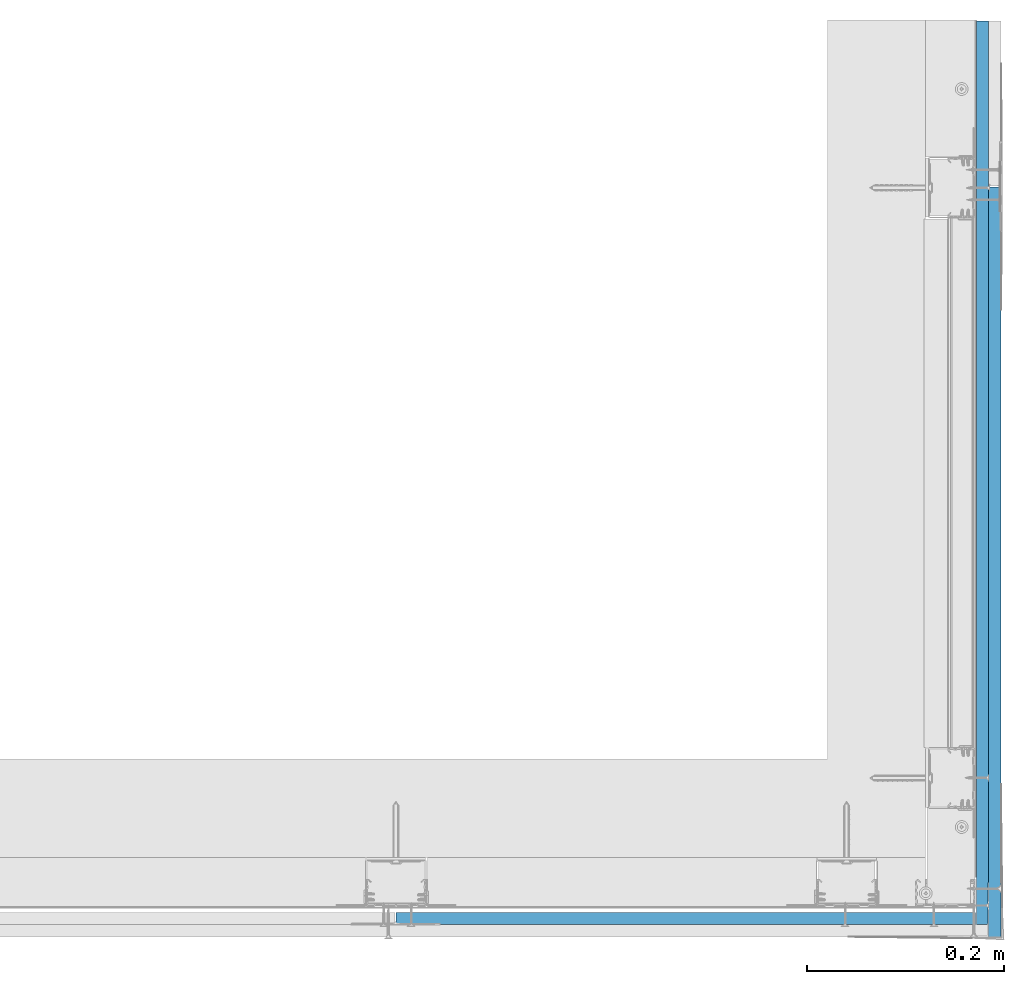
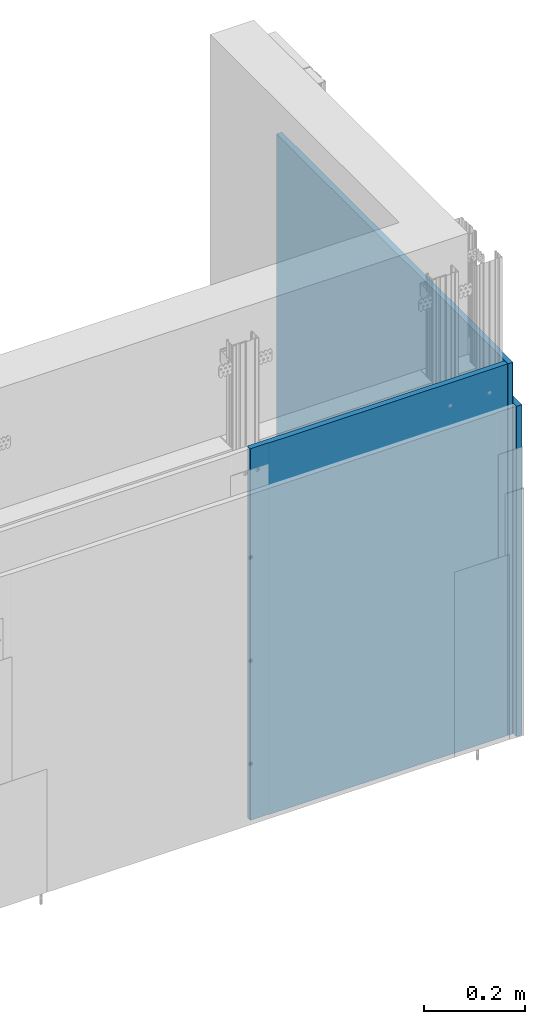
# One storey, part 3 of 56: 3 walls.
"""IFC2X3 building model written with IfcOpenShell, lengths in millimetres."""

from ifc_helpers import new_model, entity, si_unit, converted_unit, direction, frame, origin, origin_with_axes, place, context, project, spatial, faceted_brep, element, save


model = new_model("IFC2X3")

# Units and contexts
model_context = context("Model", 3, precision=1e-05, world=origin(), true_north=direction((0.0, 1.0, 0.0)))
ifc_project = project(units=[si_unit("LENGTHUNIT", "METRE", prefix="MILLI"), si_unit("AREAUNIT", "SQUARE_METRE"), si_unit("VOLUMEUNIT", "CUBIC_METRE"), converted_unit("PLANEANGLEUNIT", "DEGREE", entity("IfcPlaneAngleMeasure", 0.01745), si_unit("PLANEANGLEUNIT", "RADIAN"), dimensions=[0, 0, 0, 0, 0, 0, 0]), si_unit("SOLIDANGLEUNIT", "STERADIAN"), si_unit("MASSUNIT", "GRAM"), si_unit("TIMEUNIT", "SECOND"), si_unit("THERMODYNAMICTEMPERATUREUNIT", "DEGREE_CELSIUS"), si_unit("LUMINOUSINTENSITYUNIT", "LUMEN")], contexts=[model_context])

# Site, building, storey
site_placement = place(None, origin_with_axes())
site = spatial("IfcSite", under=ifc_project, at=site_placement, Name="Default Site", CompositionType="ELEMENT")
building_placement = place(site_placement, origin_with_axes())
building = spatial("IfcBuilding", under=site, at=building_placement, Name="Default Building", CompositionType="ELEMENT")
storey_placement = place(building_placement, origin_with_axes())
storey = spatial("IfcBuildingStorey", under=building, at=storey_placement, Name="Default Building Storey", CompositionType="ELEMENT", Elevation=0.0)

# Walls
wall_1_placement = place(storey_placement, frame((3807.092982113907, 1503.509089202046, 1059.19359740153), z_axis=(0.0, 0.0, 1.0), x_axis=(-6.387668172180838e-13, 1.0, 0.0)))
element("IfcWall", 1, at=wall_1_placement, inside=storey, Name="Płyta gipsowo-kartonowa RIGIPS PRO (4PRO™)", context=model_context, shape_type="Brep", body=[
    faceted_brep([(437.6709883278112, 2.598881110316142e-10, -249.9999999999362), (437.6709883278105, -12.50000000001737, -249.9999999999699), (437.6709883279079, -12.49999999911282, -1050.001581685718), (437.6709883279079, 1.164443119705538e-09, -1050.001581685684), (1155.000000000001, -12.49999999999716, -249.9999999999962), (1200.0, -1.443822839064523e-12, -249.9999999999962), (1200.000000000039, -10.49999999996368, -249.9999999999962), (1199.965925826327, -10.75881904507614, -249.9999999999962), (1199.866025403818, -10.99999999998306, -249.9999999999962), (1199.707106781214, -11.20710678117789, -249.9999999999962), (1199.50000000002, -11.36602540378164, -249.9999999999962), (1199.258819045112, -11.46592582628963, -249.9999999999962), (1199.0, -11.50000000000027, -249.9999999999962), (1158.999999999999, -11.50000000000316, -249.9999999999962), (1199.965925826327, -10.75881904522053, -1050.001581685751), (1199.866025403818, -11.00000000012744, -1050.001581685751), (1199.707106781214, -11.20710678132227, -1050.001581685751), (1199.50000000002, -11.36602540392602, -1050.001581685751), (1199.258819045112, -11.46592582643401, -1050.001581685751), (1199.0, -11.50000000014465, -1050.001581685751), (1158.999999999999, -11.50000000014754, -1050.001581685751), (1155.000000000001, -12.50000000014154, -1050.001581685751), (1200.0, -1.458261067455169e-10, -1050.001581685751), (1200.000000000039, -10.50000000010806, -1050.001581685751)], [[[0, 1, 2, 3]], [[4, 1, 0, 5, 6, 7, 8, 9, 10, 11, 12, 13]], [[8, 7, 14, 15]], [[9, 8, 15, 16]], [[10, 9, 16, 17]], [[11, 10, 17, 18]], [[12, 11, 18, 19]], [[13, 12, 19, 20]], [[4, 13, 20, 21]], [[21, 2, 1, 4]], [[0, 3, 22, 5]], [[6, 5, 22, 23]], [[7, 6, 23, 14]], [[14, 23, 22, 3, 2, 21, 20, 19, 18, 17, 16, 15]]]),
])
wall_2_placement = place(storey_placement, frame((4404.603518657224, 1966.180077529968, 1159.193597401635), z_axis=(0.0, 0.0, 1.0), x_axis=(-1.0, -6.389333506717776e-13, 0.0)))
element("IfcWall", 2, at=wall_2_placement, inside=storey, Name="Płyta gipsowo-kartonowa RIGIPS PRO (4PRO™)", context=model_context, shape_type="Brep", body=[
    faceted_brep([(611.0105365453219, 1.082867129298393e-12, -249.999999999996), (611.0105365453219, 12.50000000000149, -249.999999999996), (611.0105365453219, 12.50000000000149, -1150.00158168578), (611.0105365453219, 1.082867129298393e-12, -1150.00158168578), (1155.000000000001, 12.49999999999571, -249.9999999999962), (1200.0, 0.0, -249.9999999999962), (1200.000000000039, 10.49999999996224, -249.9999999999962), (1199.965925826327, 10.75881904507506, -249.9999999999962), (1199.866025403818, 10.99999999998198, -249.9999999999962), (1199.707106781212, 11.20710678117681, -249.9999999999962), (1199.50000000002, 11.36602540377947, -249.9999999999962), (1199.258819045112, 11.46592582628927, -249.9999999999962), (1199.0, 11.50000000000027, -249.9999999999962), (1158.999999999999, 11.50000000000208, -249.9999999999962), (1199.965925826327, 10.75881904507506, -1150.001581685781), (1199.866025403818, 10.99999999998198, -1150.001581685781), (1199.707106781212, 11.20710678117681, -1150.001581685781), (1199.50000000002, 11.36602540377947, -1150.001581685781), (1199.258819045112, 11.46592582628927, -1150.001581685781), (1199.0, 11.50000000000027, -1150.001581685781), (1158.999999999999, 11.50000000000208, -1150.001581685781), (1155.000000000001, 12.49999999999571, -1150.001581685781), (1200.0, 0.0, -1150.001581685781), (1200.000000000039, 10.49999999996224, -1150.001581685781)], [[[0, 1, 2, 3]], [[4, 1, 0, 5, 6, 7, 8, 9, 10, 11, 12, 13]], [[8, 7, 14, 15]], [[9, 8, 15, 16]], [[10, 9, 16, 17]], [[11, 10, 17, 18]], [[12, 11, 18, 19]], [[13, 12, 19, 20]], [[4, 13, 20, 21]], [[21, 2, 1, 4]], [[0, 3, 22, 5]], [[6, 5, 22, 23]], [[7, 6, 23, 14]], [[14, 23, 22, 3, 2, 21, 20, 19, 18, 17, 16, 15]]]),
])
wall_3_placement = place(storey_placement, frame((3794.592982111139, 3153.680077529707, 1159.193597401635), z_axis=(0.0, 0.0, 1.0), x_axis=(6.387668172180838e-13, -1.0, 0.0)))
element("IfcWall", 3, at=wall_3_placement, inside=storey, Name="Płyta gipsowo-kartonowa RIGIPS PRO (4PRO™)", context=model_context, shape_type="Brep", body=[
    faceted_brep([(281.6635732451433, -2.880426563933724e-10, -249.9999999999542), (281.6635732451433, 12.49999999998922, -249.9999999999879), (281.6635732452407, 12.49999999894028, -1150.001581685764), (281.6635732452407, -1.336979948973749e-09, -1150.001581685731), (1155.000000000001, 12.49999999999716, -249.9999999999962), (1200.0, 1.443822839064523e-12, -249.9999999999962), (1200.000000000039, 10.49999999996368, -249.9999999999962), (1199.965925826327, 10.75881904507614, -249.9999999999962), (1199.866025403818, 10.99999999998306, -249.9999999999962), (1199.707106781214, 11.20710678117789, -249.9999999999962), (1199.50000000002, 11.3660254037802, -249.9999999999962), (1199.258819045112, 11.46592582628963, -249.9999999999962), (1199.0, 11.50000000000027, -249.9999999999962), (1159.0, 11.50000000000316, -249.9999999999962), (1199.965925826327, 10.75881904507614, -1150.001581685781), (1199.866025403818, 10.99999999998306, -1150.001581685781), (1199.707106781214, 11.20710678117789, -1150.001581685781), (1199.50000000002, 11.3660254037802, -1150.001581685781), (1199.258819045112, 11.46592582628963, -1150.001581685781), (1199.0, 11.50000000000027, -1150.001581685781), (1159.0, 11.50000000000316, -1150.001581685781), (1155.000000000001, 12.49999999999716, -1150.001581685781), (1200.0, 1.443822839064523e-12, -1150.001581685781), (1200.000000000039, 10.49999999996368, -1150.001581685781)], [[[0, 1, 2, 3]], [[4, 1, 0, 5, 6, 7, 8, 9, 10, 11, 12, 13]], [[8, 7, 14, 15]], [[9, 8, 15, 16]], [[10, 9, 16, 17]], [[11, 10, 17, 18]], [[12, 11, 18, 19]], [[13, 12, 19, 20]], [[4, 13, 20, 21]], [[21, 2, 1, 4]], [[0, 3, 22, 5]], [[6, 5, 22, 23]], [[7, 6, 23, 14]], [[14, 23, 22, 3, 2, 21, 20, 19, 18, 17, 16, 15]]]),
])

save(model, "model.ifc")
